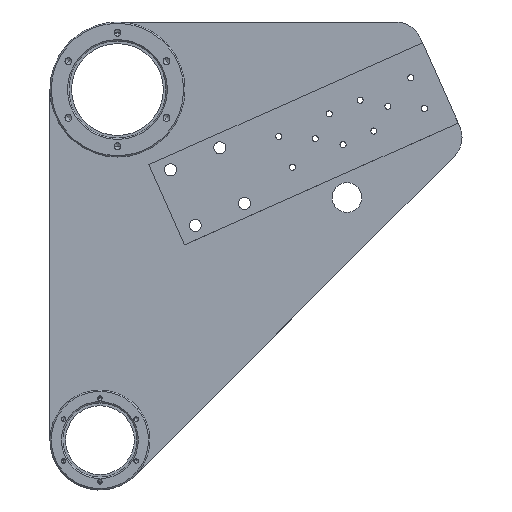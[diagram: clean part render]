
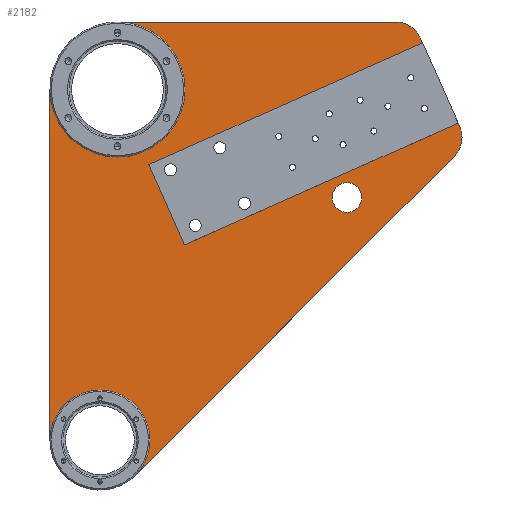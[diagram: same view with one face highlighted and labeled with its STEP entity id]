
A CAD part, top view. The second image highlights one B-rep face of the part: STEP entity #2182.
In plain terms, the highlighted planar face has unit normal (0, 0, 1).
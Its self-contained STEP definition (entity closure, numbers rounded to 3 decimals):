
#49 = EDGE_CURVE ( 'NONE', #1584, #739, #149, .T. ) ;
#71 = EDGE_CURVE ( 'NONE', #2117, #3788, #2877, .T. ) ;
#102 = CARTESIAN_POINT ( 'NONE',  ( 26.163, -26.163, 20. ) ) ;
#142 = EDGE_CURVE ( 'NONE', #2282, #4033, #4598, .T. ) ;
#149 = CIRCLE ( 'NONE', #695, 50. ) ;
#156 = DIRECTION ( 'NONE',  ( 1., 0., 0. ) ) ;
#184 = DIRECTION ( 'NONE',  ( -0.914, -0.407, 0. ) ) ;
#221 = CARTESIAN_POINT ( 'NONE',  ( -37., 0., 20. ) ) ;
#227 = CARTESIAN_POINT ( 'NONE',  ( 279.884, 202.374, 20. ) ) ;
#255 = ORIENTED_EDGE ( 'NONE', *, *, #3994, .T. ) ;
#270 = VERTEX_POINT ( 'NONE', #2223 ) ;
#292 = EDGE_LOOP ( 'NONE', ( #1711, #3512, #3134, #4681, #4610, #1637, #1322, #4376, #1747, #255, #2499, #1350, #2697, #1489, #801 ) ) ;
#319 = CARTESIAN_POINT ( 'NONE',  ( -37., 0., 20. ) ) ;
#324 = EDGE_CURVE ( 'NONE', #3393, #3984, #1217, .T. ) ;
#422 = CARTESIAN_POINT ( 'NONE',  ( 37., 0., 20. ) ) ;
#436 = CARTESIAN_POINT ( 'NONE',  ( 219.123, 309.675, 20. ) ) ;
#439 = EDGE_CURVE ( 'NONE', #4445, #1330, #3563, .T. ) ;
#441 = VERTEX_POINT ( 'NONE', #4223 ) ;
#527 = VECTOR ( 'NONE', #184, 1000. ) ;
#530 = DIRECTION ( 'NONE',  ( 0., 0., 1. ) ) ;
#589 = CARTESIAN_POINT ( 'NONE',  ( 318.413, 258.436, 20. ) ) ;
#590 = EDGE_CURVE ( 'NONE', #3937, #4625, #1556, .T. ) ;
#603 = EDGE_CURVE ( 'NONE', #270, #4215, #1872, .T. ) ;
#607 = EDGE_LOOP ( 'NONE', ( #2521, #2147 ) ) ;
#611 = CIRCLE ( 'NONE', #2395, 20. ) ;
#645 = CARTESIAN_POINT ( 'NONE',  ( 276.645, 224.319, 20. ) ) ;
#695 = AXIS2_PLACEMENT_3D ( 'NONE', #3772, #4576, #156 ) ;
#739 = VERTEX_POINT ( 'NONE', #913 ) ;
#784 = CARTESIAN_POINT ( 'NONE',  ( 183., 179.675, 20. ) ) ;
#791 = DIRECTION ( 'NONE',  ( 0., 0., 1. ) ) ;
#801 = ORIENTED_EDGE ( 'NONE', *, *, #71, .F. ) ;
#899 = LINE ( 'NONE', #1666, #1501 ) ;
#913 = CARTESIAN_POINT ( 'NONE',  ( 13., 309.675, 20. ) ) ;
#926 = CARTESIAN_POINT ( 'NONE',  ( 279.884, 202.374, 20. ) ) ;
#1061 = EDGE_CURVE ( 'NONE', #4215, #270, #3442, .T. ) ;
#1217 = LINE ( 'NONE', #926, #3342 ) ;
#1220 = FACE_OUTER_BOUND ( 'NONE', #292, .T. ) ;
#1225 = CARTESIAN_POINT ( 'NONE',  ( 0., 0., 20. ) ) ;
#1255 = DIRECTION ( 'NONE',  ( 1., 0., 0. ) ) ;
#1276 = DIRECTION ( 'NONE',  ( 1., 0., 0. ) ) ;
#1321 = VECTOR ( 'NONE', #2730, 1000. ) ;
#1322 = ORIENTED_EDGE ( 'NONE', *, *, #3554, .F. ) ;
#1330 = VERTEX_POINT ( 'NONE', #319 ) ;
#1347 = CARTESIAN_POINT ( 'NONE',  ( 248.264, 224.222, 20. ) ) ;
#1350 = ORIENTED_EDGE ( 'NONE', *, *, #1668, .F. ) ;
#1489 = ORIENTED_EDGE ( 'NONE', *, *, #3449, .F. ) ;
#1501 = VECTOR ( 'NONE', #2440, 1000. ) ;
#1556 = CIRCLE ( 'NONE', #4283, 20. ) ;
#1584 = VERTEX_POINT ( 'NONE', #1592 ) ;
#1592 = CARTESIAN_POINT ( 'NONE',  ( 63., 259.675, 20. ) ) ;
#1629 = CARTESIAN_POINT ( 'NONE',  ( 248.264, 224.222, 20. ) ) ;
#1637 = ORIENTED_EDGE ( 'NONE', *, *, #1665, .F. ) ;
#1658 = DIRECTION ( 'NONE',  ( 0., 0., 1. ) ) ;
#1665 = EDGE_CURVE ( 'NONE', #441, #4605, #899, .T. ) ;
#1666 = CARTESIAN_POINT ( 'NONE',  ( 62.62, 144.55, 20. ) ) ;
#1668 = EDGE_CURVE ( 'NONE', #4445, #1584, #3845, .T. ) ;
#1700 = VECTOR ( 'NONE', #3255, 1000. ) ;
#1711 = ORIENTED_EDGE ( 'NONE', *, *, #3507, .T. ) ;
#1730 = EDGE_CURVE ( 'NONE', #4605, #3984, #2462, .T. ) ;
#1747 = ORIENTED_EDGE ( 'NONE', *, *, #4285, .T. ) ;
#1872 = CIRCLE ( 'NONE', #2806, 11. ) ;
#1878 = CARTESIAN_POINT ( 'NONE',  ( 237.394, 297.81, 20. ) ) ;
#1902 = AXIS2_PLACEMENT_3D ( 'NONE', #1913, #3390, #2347 ) ;
#1913 = CARTESIAN_POINT ( 'NONE',  ( 140.706, 140.408, 20. ) ) ;
#1972 = AXIS2_PLACEMENT_3D ( 'NONE', #784, #2277, #4211 ) ;
#2034 = CARTESIAN_POINT ( 'NONE',  ( 268.264, 224.222, 20. ) ) ;
#2061 = CARTESIAN_POINT ( 'NONE',  ( 262.406, 210.08, 20. ) ) ;
#2077 = CARTESIAN_POINT ( 'NONE',  ( 219.123, 289.675, 20. ) ) ;
#2088 = DIRECTION ( 'NONE',  ( 0., 0., 1. ) ) ;
#2117 = VERTEX_POINT ( 'NONE', #102 ) ;
#2147 = ORIENTED_EDGE ( 'NONE', *, *, #1061, .F. ) ;
#2177 = AXIS2_PLACEMENT_3D ( 'NONE', #2077, #1658, #4269 ) ;
#2182 = ADVANCED_FACE ( 'NONE', ( #2273, #1220 ), #3768, .T. ) ;
#2223 = CARTESIAN_POINT ( 'NONE',  ( 172., 179.675, 20. ) ) ;
#2273 = FACE_BOUND ( 'NONE', #607, .T. ) ;
#2277 = DIRECTION ( 'NONE',  ( 0., 0., 1. ) ) ;
#2282 = VERTEX_POINT ( 'NONE', #3807 ) ;
#2347 = DIRECTION ( 'NONE',  ( 1., 0., 0. ) ) ;
#2356 = AXIS2_PLACEMENT_3D ( 'NONE', #3171, #2780, #4319 ) ;
#2395 = AXIS2_PLACEMENT_3D ( 'NONE', #1347, #3936, #2860 ) ;
#2399 = DIRECTION ( 'NONE',  ( 1., 0., 0. ) ) ;
#2440 = DIRECTION ( 'NONE',  ( 0.407, -0.914, 0. ) ) ;
#2462 = LINE ( 'NONE', #589, #4069 ) ;
#2468 = CARTESIAN_POINT ( 'NONE',  ( 0., 0., 20. ) ) ;
#2495 = LINE ( 'NONE', #645, #1700 ) ;
#2499 = ORIENTED_EDGE ( 'NONE', *, *, #49, .F. ) ;
#2521 = ORIENTED_EDGE ( 'NONE', *, *, #603, .F. ) ;
#2529 = CARTESIAN_POINT ( 'NONE',  ( -37., 259.675, 20. ) ) ;
#2550 = VECTOR ( 'NONE', #4793, 1000. ) ;
#2645 = CARTESIAN_POINT ( 'NONE',  ( 183., 179.675, 20. ) ) ;
#2697 = ORIENTED_EDGE ( 'NONE', *, *, #439, .T. ) ;
#2730 = DIRECTION ( 'NONE',  ( 0., -1., 0. ) ) ;
#2741 = DIRECTION ( 'NONE',  ( 0., 0., 1. ) ) ;
#2780 = DIRECTION ( 'NONE',  ( 0., 0., 1. ) ) ;
#2806 = AXIS2_PLACEMENT_3D ( 'NONE', #2645, #530, #3374 ) ;
#2860 = DIRECTION ( 'NONE',  ( 1., 0., 0. ) ) ;
#2877 = CIRCLE ( 'NONE', #3655, 37. ) ;
#2928 = LINE ( 'NONE', #4728, #2550 ) ;
#3020 = AXIS2_PLACEMENT_3D ( 'NONE', #1225, #2741, #2399 ) ;
#3115 = CIRCLE ( 'NONE', #2177, 20. ) ;
#3134 = ORIENTED_EDGE ( 'NONE', *, *, #3902, .T. ) ;
#3153 = DIRECTION ( 'NONE',  ( -0.407, 0.914, 0. ) ) ;
#3171 = CARTESIAN_POINT ( 'NONE',  ( 13., 259.675, 20. ) ) ;
#3200 = CARTESIAN_POINT ( 'NONE',  ( 36.182, 203.931, 20. ) ) ;
#3255 = DIRECTION ( 'NONE',  ( 0.707, 0.707, 0. ) ) ;
#3342 = VECTOR ( 'NONE', #3541, 1000. ) ;
#3374 = DIRECTION ( 'NONE',  ( 1., 0., 0. ) ) ;
#3390 = DIRECTION ( 'NONE',  ( 0., 0., 1. ) ) ;
#3393 = VERTEX_POINT ( 'NONE', #4231 ) ;
#3442 = CIRCLE ( 'NONE', #1972, 11. ) ;
#3449 = EDGE_CURVE ( 'NONE', #3788, #1330, #3960, .T. ) ;
#3463 = CARTESIAN_POINT ( 'NONE',  ( 62.62, 144.55, 20. ) ) ;
#3507 = EDGE_CURVE ( 'NONE', #2117, #3937, #2495, .T. ) ;
#3512 = ORIENTED_EDGE ( 'NONE', *, *, #590, .T. ) ;
#3541 = DIRECTION ( 'NONE',  ( -0.407, 0.914, 0. ) ) ;
#3554 = EDGE_CURVE ( 'NONE', #2282, #441, #3967, .T. ) ;
#3563 = LINE ( 'NONE', #221, #1321 ) ;
#3565 = CARTESIAN_POINT ( 'NONE',  ( 265.427, 234.846, 20. ) ) ;
#3655 = AXIS2_PLACEMENT_3D ( 'NONE', #2468, #2088, #1276 ) ;
#3768 = PLANE ( 'NONE',  #1902 ) ;
#3772 = CARTESIAN_POINT ( 'NONE',  ( 13., 259.675, 20. ) ) ;
#3788 = VERTEX_POINT ( 'NONE', #422 ) ;
#3807 = CARTESIAN_POINT ( 'NONE',  ( 238.989, 294.226, 20. ) ) ;
#3845 = CIRCLE ( 'NONE', #2356, 50. ) ;
#3902 = EDGE_CURVE ( 'NONE', #4625, #3393, #611, .T. ) ;
#3936 = DIRECTION ( 'NONE',  ( 0., 0., 1. ) ) ;
#3937 = VERTEX_POINT ( 'NONE', #2061 ) ;
#3960 = CIRCLE ( 'NONE', #3020, 37. ) ;
#3967 = LINE ( 'NONE', #3200, #527 ) ;
#3984 = VERTEX_POINT ( 'NONE', #3565 ) ;
#3994 = EDGE_CURVE ( 'NONE', #4228, #739, #2928, .T. ) ;
#4033 = VERTEX_POINT ( 'NONE', #1878 ) ;
#4069 = VECTOR ( 'NONE', #4616, 1000. ) ;
#4126 = CARTESIAN_POINT ( 'NONE',  ( 194., 179.675, 20. ) ) ;
#4211 = DIRECTION ( 'NONE',  ( 1., 0., 0. ) ) ;
#4215 = VERTEX_POINT ( 'NONE', #4126 ) ;
#4223 = CARTESIAN_POINT ( 'NONE',  ( 36.182, 203.931, 20. ) ) ;
#4228 = VERTEX_POINT ( 'NONE', #436 ) ;
#4231 = CARTESIAN_POINT ( 'NONE',  ( 266.535, 232.357, 20. ) ) ;
#4269 = DIRECTION ( 'NONE',  ( 1., 0., 0. ) ) ;
#4283 = AXIS2_PLACEMENT_3D ( 'NONE', #1629, #791, #1255 ) ;
#4285 = EDGE_CURVE ( 'NONE', #4033, #4228, #3115, .T. ) ;
#4319 = DIRECTION ( 'NONE',  ( 1., 0., 0. ) ) ;
#4376 = ORIENTED_EDGE ( 'NONE', *, *, #142, .T. ) ;
#4424 = VECTOR ( 'NONE', #3153, 1000. ) ;
#4445 = VERTEX_POINT ( 'NONE', #2529 ) ;
#4576 = DIRECTION ( 'NONE',  ( 0., 0., 1. ) ) ;
#4598 = LINE ( 'NONE', #227, #4424 ) ;
#4605 = VERTEX_POINT ( 'NONE', #3463 ) ;
#4610 = ORIENTED_EDGE ( 'NONE', *, *, #1730, .F. ) ;
#4616 = DIRECTION ( 'NONE',  ( 0.914, 0.407, 0. ) ) ;
#4625 = VERTEX_POINT ( 'NONE', #2034 ) ;
#4681 = ORIENTED_EDGE ( 'NONE', *, *, #324, .T. ) ;
#4728 = CARTESIAN_POINT ( 'NONE',  ( 13., 309.675, 20. ) ) ;
#4793 = DIRECTION ( 'NONE',  ( -1., 0., 0. ) ) ;
